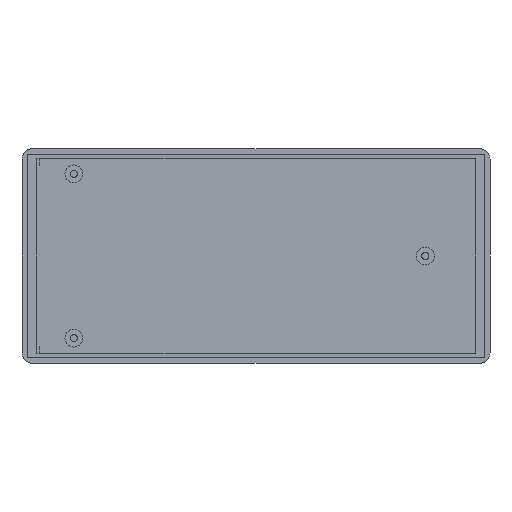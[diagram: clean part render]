
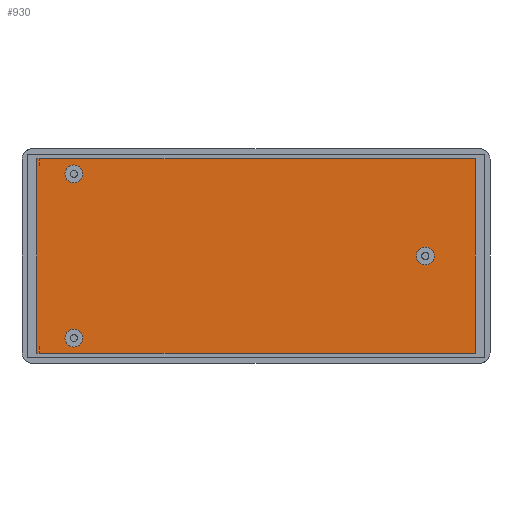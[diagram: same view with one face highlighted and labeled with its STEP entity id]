
A CAD part, front view. The second image highlights one B-rep face of the part: STEP entity #930.
In plain terms, the highlighted planar face has unit normal (0, -1, 0).
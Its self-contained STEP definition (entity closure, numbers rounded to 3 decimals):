
#31 = ORIENTED_EDGE ( 'NONE', *, *, #1927, .F. ) ;
#32 = ORIENTED_EDGE ( 'NONE', *, *, #1317, .T. ) ;
#42 = DIRECTION ( 'NONE',  ( 0., 0., 1. ) ) ;
#43 = CARTESIAN_POINT ( 'NONE',  ( -60.5, 3.7, -27.25 ) ) ;
#47 = EDGE_LOOP ( 'NONE', ( #1845, #1777 ) ) ;
#55 = CARTESIAN_POINT ( 'NONE',  ( -60.7, 3.7, -27.25 ) ) ;
#70 = VERTEX_POINT ( 'NONE', #1383 ) ;
#85 = VECTOR ( 'NONE', #1426, 1000. ) ;
#101 = VERTEX_POINT ( 'NONE', #1220 ) ;
#106 = CARTESIAN_POINT ( 'NONE',  ( -61.397, 3.7, 27.25 ) ) ;
#110 = DIRECTION ( 'NONE',  ( 0., -1., 0. ) ) ;
#120 = CARTESIAN_POINT ( 'NONE',  ( -51., 3.7, 23. ) ) ;
#131 = VERTEX_POINT ( 'NONE', #1062 ) ;
#161 = DIRECTION ( 'NONE',  ( 0., 0., -1. ) ) ;
#162 = LINE ( 'NONE', #1563, #1014 ) ;
#166 = DIRECTION ( 'NONE',  ( 0., -1., 0. ) ) ;
#173 = CARTESIAN_POINT ( 'NONE',  ( -51., 3.7, 23. ) ) ;
#180 = EDGE_CURVE ( 'NONE', #1844, #722, #1195, .T. ) ;
#191 = EDGE_CURVE ( 'NONE', #300, #1008, #578, .T. ) ;
#201 = LINE ( 'NONE', #1236, #1739 ) ;
#221 = CARTESIAN_POINT ( 'NONE',  ( -61.397, 3.7, -27.25 ) ) ;
#228 = CARTESIAN_POINT ( 'NONE',  ( 47.4, 3.7, 0. ) ) ;
#268 = VERTEX_POINT ( 'NONE', #106 ) ;
#283 = LINE ( 'NONE', #43, #982 ) ;
#297 = VECTOR ( 'NONE', #537, 1000. ) ;
#300 = VERTEX_POINT ( 'NONE', #1472 ) ;
#303 = FACE_BOUND ( 'NONE', #1323, .T. ) ;
#327 = CIRCLE ( 'NONE', #514, 2.5 ) ;
#347 = LINE ( 'NONE', #552, #297 ) ;
#351 = LINE ( 'NONE', #1199, #960 ) ;
#388 = AXIS2_PLACEMENT_3D ( 'NONE', #228, #1034, #935 ) ;
#429 = EDGE_CURVE ( 'NONE', #1242, #1258, #283, .T. ) ;
#441 = DIRECTION ( 'NONE',  ( 1., 0., 0. ) ) ;
#444 = CARTESIAN_POINT ( 'NONE',  ( -60.7, 3.7, 25.3 ) ) ;
#454 = ORIENTED_EDGE ( 'NONE', *, *, #1483, .T. ) ;
#455 = AXIS2_PLACEMENT_3D ( 'NONE', #1244, #1123, #1107 ) ;
#487 = EDGE_CURVE ( 'NONE', #695, #1874, #162, .T. ) ;
#514 = AXIS2_PLACEMENT_3D ( 'NONE', #120, #110, #1589 ) ;
#520 = ORIENTED_EDGE ( 'NONE', *, *, #1109, .F. ) ;
#537 = DIRECTION ( 'NONE',  ( 0., 0., -1. ) ) ;
#539 = VECTOR ( 'NONE', #441, 1000. ) ;
#543 = EDGE_CURVE ( 'NONE', #70, #1759, #776, .T. ) ;
#545 = FACE_BOUND ( 'NONE', #47, .T. ) ;
#552 = CARTESIAN_POINT ( 'NONE',  ( -60.7, 3.7, 27.25 ) ) ;
#578 = LINE ( 'NONE', #820, #1395 ) ;
#605 = ORIENTED_EDGE ( 'NONE', *, *, #950, .T. ) ;
#608 = DIRECTION ( 'NONE',  ( 0., 0., 1. ) ) ;
#618 = ORIENTED_EDGE ( 'NONE', *, *, #921, .T. ) ;
#646 = DIRECTION ( 'NONE',  ( 0., -1., 0. ) ) ;
#647 = EDGE_LOOP ( 'NONE', ( #520, #951 ) ) ;
#650 = CARTESIAN_POINT ( 'NONE',  ( 61.397, 3.7, 27.25 ) ) ;
#653 = DIRECTION ( 'NONE',  ( 0., 0., -1. ) ) ;
#661 = CARTESIAN_POINT ( 'NONE',  ( -51., 3.7, -23. ) ) ;
#694 = LINE ( 'NONE', #650, #1622 ) ;
#695 = VERTEX_POINT ( 'NONE', #1812 ) ;
#722 = VERTEX_POINT ( 'NONE', #1745 ) ;
#768 = DIRECTION ( 'NONE',  ( 0., -1., 0. ) ) ;
#776 = CIRCLE ( 'NONE', #388, 2.5 ) ;
#794 = CARTESIAN_POINT ( 'NONE',  ( 61.397, 3.7, -27.25 ) ) ;
#795 = DIRECTION ( 'NONE',  ( 0., 0., -1. ) ) ;
#804 = CARTESIAN_POINT ( 'NONE',  ( -51., 3.7, -23. ) ) ;
#818 = DIRECTION ( 'NONE',  ( 0., 0., 1. ) ) ;
#820 = CARTESIAN_POINT ( 'NONE',  ( -60.5, 3.7, 27.25 ) ) ;
#852 = LINE ( 'NONE', #1648, #85 ) ;
#863 = VECTOR ( 'NONE', #942, 1000. ) ;
#868 = CARTESIAN_POINT ( 'NONE',  ( -60.7, 3.7, 25.3 ) ) ;
#890 = CARTESIAN_POINT ( 'NONE',  ( -60.7, 3.7, 27.25 ) ) ;
#895 = EDGE_CURVE ( 'NONE', #1759, #70, #1444, .T. ) ;
#914 = EDGE_CURVE ( 'NONE', #1258, #695, #201, .T. ) ;
#921 = EDGE_CURVE ( 'NONE', #101, #1008, #351, .T. ) ;
#923 = AXIS2_PLACEMENT_3D ( 'NONE', #661, #646, #653 ) ;
#930 = ADVANCED_FACE ( 'NONE', ( #545, #1353, #303, #1695 ), #1147, .T. ) ;
#931 = VECTOR ( 'NONE', #1090, 1000. ) ;
#935 = DIRECTION ( 'NONE',  ( 0., 0., -1. ) ) ;
#938 = ORIENTED_EDGE ( 'NONE', *, *, #1239, .T. ) ;
#942 = DIRECTION ( 'NONE',  ( 0., 0., -1. ) ) ;
#950 = EDGE_CURVE ( 'NONE', #268, #1694, #1649, .T. ) ;
#951 = ORIENTED_EDGE ( 'NONE', *, *, #1690, .F. ) ;
#960 = VECTOR ( 'NONE', #1155, 1000. ) ;
#965 = VERTEX_POINT ( 'NONE', #890 ) ;
#982 = VECTOR ( 'NONE', #42, 1000. ) ;
#1005 = ORIENTED_EDGE ( 'NONE', *, *, #914, .F. ) ;
#1008 = VERTEX_POINT ( 'NONE', #1518 ) ;
#1014 = VECTOR ( 'NONE', #1684, 1000. ) ;
#1034 = DIRECTION ( 'NONE',  ( 0., -1., 0. ) ) ;
#1047 = EDGE_LOOP ( 'NONE', ( #1732, #1689, #1005, #1442, #32, #454, #618, #1691, #1185, #1705, #938, #605 ) ) ;
#1056 = LINE ( 'NONE', #1079, #931 ) ;
#1061 = CARTESIAN_POINT ( 'NONE',  ( -61.397, 3.7, 27.25 ) ) ;
#1062 = CARTESIAN_POINT ( 'NONE',  ( -51., 3.7, 25.5 ) ) ;
#1079 = CARTESIAN_POINT ( 'NONE',  ( -61.397, 3.7, -27.25 ) ) ;
#1090 = DIRECTION ( 'NONE',  ( 1., 0., 0. ) ) ;
#1107 = DIRECTION ( 'NONE',  ( 0., 0., -1. ) ) ;
#1109 = EDGE_CURVE ( 'NONE', #131, #1743, #327, .T. ) ;
#1123 = DIRECTION ( 'NONE',  ( 0., -1., 0. ) ) ;
#1147 = PLANE ( 'NONE',  #455 ) ;
#1155 = DIRECTION ( 'NONE',  ( -1., 0., 0. ) ) ;
#1170 = CARTESIAN_POINT ( 'NONE',  ( -60.5, 3.7, -25.3 ) ) ;
#1185 = ORIENTED_EDGE ( 'NONE', *, *, #1574, .F. ) ;
#1195 = CIRCLE ( 'NONE', #1665, 2.5 ) ;
#1199 = CARTESIAN_POINT ( 'NONE',  ( -61.397, 3.7, 27.25 ) ) ;
#1209 = DIRECTION ( 'NONE',  ( 0., 0., -1. ) ) ;
#1212 = DIRECTION ( 'NONE',  ( 0., -1., 0. ) ) ;
#1220 = CARTESIAN_POINT ( 'NONE',  ( 61.397, 3.7, 27.25 ) ) ;
#1225 = CARTESIAN_POINT ( 'NONE',  ( 47.4, 3.7, 0. ) ) ;
#1227 = DIRECTION ( 'NONE',  ( -1., 0., 0. ) ) ;
#1231 = CIRCLE ( 'NONE', #1515, 2.5 ) ;
#1236 = CARTESIAN_POINT ( 'NONE',  ( -60.7, 3.7, -25.3 ) ) ;
#1239 = EDGE_CURVE ( 'NONE', #965, #268, #1596, .T. ) ;
#1242 = VERTEX_POINT ( 'NONE', #1245 ) ;
#1244 = CARTESIAN_POINT ( 'NONE',  ( 0., 3.7, 0. ) ) ;
#1245 = CARTESIAN_POINT ( 'NONE',  ( -60.5, 3.7, -27.25 ) ) ;
#1246 = CARTESIAN_POINT ( 'NONE',  ( -61.397, 3.7, 27.25 ) ) ;
#1249 = DIRECTION ( 'NONE',  ( -1., 0., 0. ) ) ;
#1258 = VERTEX_POINT ( 'NONE', #1170 ) ;
#1276 = CARTESIAN_POINT ( 'NONE',  ( -51., 3.7, -20.5 ) ) ;
#1317 = EDGE_CURVE ( 'NONE', #1242, #1445, #1056, .T. ) ;
#1323 = EDGE_LOOP ( 'NONE', ( #1775, #31 ) ) ;
#1353 = FACE_BOUND ( 'NONE', #647, .T. ) ;
#1383 = CARTESIAN_POINT ( 'NONE',  ( 47.4, 3.7, 2.5 ) ) ;
#1389 = AXIS2_PLACEMENT_3D ( 'NONE', #1225, #1212, #1209 ) ;
#1395 = VECTOR ( 'NONE', #818, 1000. ) ;
#1412 = VERTEX_POINT ( 'NONE', #868 ) ;
#1426 = DIRECTION ( 'NONE',  ( 1., 0., 0. ) ) ;
#1442 = ORIENTED_EDGE ( 'NONE', *, *, #429, .F. ) ;
#1444 = CIRCLE ( 'NONE', #1389, 2.5 ) ;
#1445 = VERTEX_POINT ( 'NONE', #794 ) ;
#1452 = CIRCLE ( 'NONE', #923, 2.5 ) ;
#1472 = CARTESIAN_POINT ( 'NONE',  ( -60.5, 3.7, 25.3 ) ) ;
#1483 = EDGE_CURVE ( 'NONE', #1445, #101, #694, .T. ) ;
#1515 = AXIS2_PLACEMENT_3D ( 'NONE', #173, #166, #161 ) ;
#1518 = CARTESIAN_POINT ( 'NONE',  ( -60.5, 3.7, 27.25 ) ) ;
#1531 = EDGE_CURVE ( 'NONE', #965, #1412, #347, .T. ) ;
#1563 = CARTESIAN_POINT ( 'NONE',  ( -60.7, 3.7, -27.25 ) ) ;
#1574 = EDGE_CURVE ( 'NONE', #1412, #300, #1847, .T. ) ;
#1589 = DIRECTION ( 'NONE',  ( 0., 0., -1. ) ) ;
#1596 = LINE ( 'NONE', #1246, #1740 ) ;
#1622 = VECTOR ( 'NONE', #608, 1000. ) ;
#1648 = CARTESIAN_POINT ( 'NONE',  ( -61.397, 3.7, -27.25 ) ) ;
#1649 = LINE ( 'NONE', #1061, #863 ) ;
#1665 = AXIS2_PLACEMENT_3D ( 'NONE', #804, #768, #795 ) ;
#1684 = DIRECTION ( 'NONE',  ( 0., 0., -1. ) ) ;
#1689 = ORIENTED_EDGE ( 'NONE', *, *, #487, .F. ) ;
#1690 = EDGE_CURVE ( 'NONE', #1743, #131, #1231, .T. ) ;
#1691 = ORIENTED_EDGE ( 'NONE', *, *, #191, .F. ) ;
#1693 = CARTESIAN_POINT ( 'NONE',  ( 47.4, 3.7, -2.5 ) ) ;
#1694 = VERTEX_POINT ( 'NONE', #221 ) ;
#1695 = FACE_OUTER_BOUND ( 'NONE', #1047, .T. ) ;
#1705 = ORIENTED_EDGE ( 'NONE', *, *, #1531, .F. ) ;
#1732 = ORIENTED_EDGE ( 'NONE', *, *, #1791, .T. ) ;
#1739 = VECTOR ( 'NONE', #1249, 1000. ) ;
#1740 = VECTOR ( 'NONE', #1227, 1000. ) ;
#1743 = VERTEX_POINT ( 'NONE', #1885 ) ;
#1745 = CARTESIAN_POINT ( 'NONE',  ( -51., 3.7, -25.5 ) ) ;
#1759 = VERTEX_POINT ( 'NONE', #1693 ) ;
#1775 = ORIENTED_EDGE ( 'NONE', *, *, #180, .F. ) ;
#1777 = ORIENTED_EDGE ( 'NONE', *, *, #895, .F. ) ;
#1791 = EDGE_CURVE ( 'NONE', #1694, #1874, #852, .T. ) ;
#1812 = CARTESIAN_POINT ( 'NONE',  ( -60.7, 3.7, -25.3 ) ) ;
#1844 = VERTEX_POINT ( 'NONE', #1276 ) ;
#1845 = ORIENTED_EDGE ( 'NONE', *, *, #543, .F. ) ;
#1847 = LINE ( 'NONE', #444, #539 ) ;
#1874 = VERTEX_POINT ( 'NONE', #55 ) ;
#1885 = CARTESIAN_POINT ( 'NONE',  ( -51., 3.7, 20.5 ) ) ;
#1927 = EDGE_CURVE ( 'NONE', #722, #1844, #1452, .T. ) ;
